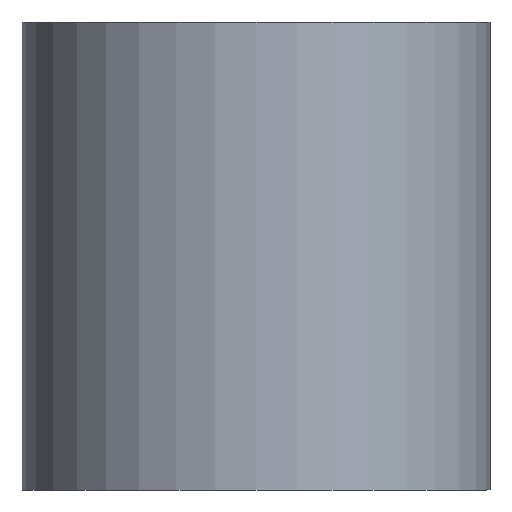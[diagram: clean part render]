
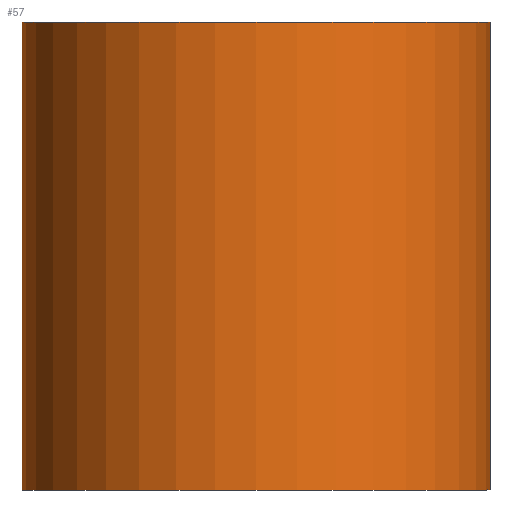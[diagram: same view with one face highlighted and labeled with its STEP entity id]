
A CAD part, front view. The second image highlights one B-rep face of the part: STEP entity #57.
In plain terms, the highlighted free-form (B-spline) face has degree [1, 2] with [2, 9] control points.
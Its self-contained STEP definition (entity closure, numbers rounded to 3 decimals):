
#1=CARTESIAN_POINT('',(0.,0.,0.));
#2=CARTESIAN_POINT('',(0.,0.,20.));
#3=CARTESIAN_POINT('',(-10.,0.,0.));
#4=CARTESIAN_POINT('',(10.,0.,20.));
#11=DIRECTION('',(0.,0.,-1.));
#16=DIRECTION('',(-1.,0.,0.));
#13=AXIS2_PLACEMENT_3D('',#1,#11,#16);
#14=AXIS2_PLACEMENT_3D('',#2,#11,#16);
#20=VERTEX_POINT('',#3);
#21=VERTEX_POINT('',#4);
#30=CIRCLE('',#13,10.);
#31=CIRCLE('',#14,10.);
#40=EDGE_CURVE('',#20,#20,#30,.T.);
#41=EDGE_CURVE('',#21,#21,#31,.T.);
#50=ORIENTED_EDGE('',*,*,#40,.T.);
#51=ORIENTED_EDGE('',*,*,#41,.F.);
#52=EDGE_LOOP('',(#50));
#53=EDGE_LOOP('',(#51));
#54=FACE_OUTER_BOUND('',#52,.T.);
#55=FACE_BOUND('',#53,.T.);
#200=CARTESIAN_POINT('',(-10.,0.,0.));
#201=CARTESIAN_POINT('',(-10.,10.,0.));
#202=CARTESIAN_POINT('',(0.,10.,0.));
#203=CARTESIAN_POINT('',(10.,10.,0.));
#204=CARTESIAN_POINT('',(10.,0.,0.));
#205=CARTESIAN_POINT('',(10.,-10.,0.));
#206=CARTESIAN_POINT('',(0.,-10.,0.));
#207=CARTESIAN_POINT('',(-10.,-10.,0.));
#208=CARTESIAN_POINT('',(-10.,0.,0.));
#210=CARTESIAN_POINT('',(-10.,0.,20.));
#211=CARTESIAN_POINT('',(-10.,10.,20.));
#212=CARTESIAN_POINT('',(0.,10.,20.));
#213=CARTESIAN_POINT('',(10.,10.,20.));
#214=CARTESIAN_POINT('',(10.,0.,20.));
#215=CARTESIAN_POINT('',(10.,-10.,20.));
#216=CARTESIAN_POINT('',(0.,-10.,20.));
#217=CARTESIAN_POINT('',(-10.,-10.,20.));
#218=CARTESIAN_POINT('',(-10.,0.,20.));
#56=(BOUNDED_SURFACE()B_SPLINE_SURFACE(1,2,((#200,#201,#202,#203,#204,#205,#206,#207,#208),(#210,#211,#212,#213,#214,#215,#216,#217,#218)),.UNSPECIFIED.,.F.,.T.,.U.)B_SPLINE_SURFACE_WITH_KNOTS((2,2),(3,2,2,2,3),(0.,20.),(0.,1.571,3.142,4.712,6.283),.UNSPECIFIED.)GEOMETRIC_REPRESENTATION_ITEM()RATIONAL_B_SPLINE_SURFACE(((1.,0.707,1.,0.707,1.,0.707,1.,0.707,1.),(1.,0.707,1.,0.707,1.,0.707,1.,0.707,1.)))REPRESENTATION_ITEM('')SURFACE());
#57=ADVANCED_FACE('',(#54,#55),#56,.T.);
